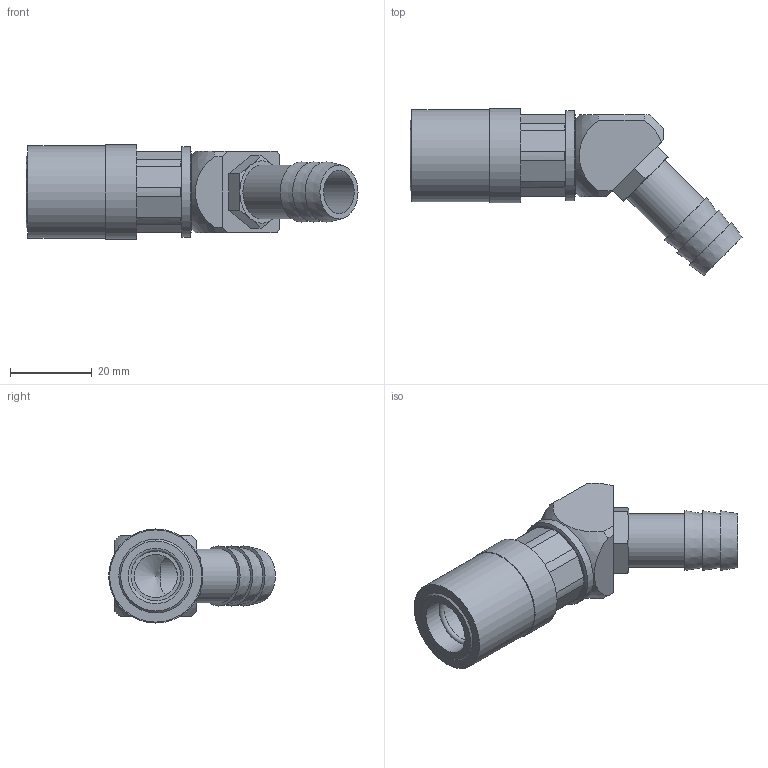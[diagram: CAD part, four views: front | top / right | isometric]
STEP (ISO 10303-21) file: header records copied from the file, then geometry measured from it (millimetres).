
FILE_DESCRIPTION(/* description */ ('STEP AP214'),/* implementation_level */ '2;1');
FILE_NAME(/* name */ 'JS-328-V',/* time_stamp */ '2024-12-19T08:58:57+01:00',/* author */ ('License CC BY-ND 4.0'),/* organization */ ('CADENAS'),/* preprocessor_version */ 'ST-DEVELOPER v19.3',/* originating_system */ 'PARTsolutions',/* authorisation */ ' ');
FILE_SCHEMA (('AUTOMOTIVE_DESIGN {1 0 10303 214 3 1 1}'));
Length unit declared in the file: inch
Products named in the file (1): JS-328-V
Bounding box: 81.31 x 40.8 x 23.06 mm (x, y, z)
Volume: 17529.9 mm3; surface area: 9536.6 mm2
Topology: 1 solids, 1 shells, 80 faces, 202 edges, 133 vertices
Faces by surface type: plane 54, cone 13, cylinder 9, sphere 3, torus 1
Full cylindrical faces by diameter (mm): 10.566 x2, 13.208 x1, 13.564 x2, 20.066 x1, 22.073 x1, 22.606 x1, 23.058 x1
Entity records: 2366 total; most frequent: CARTESIAN_POINT 489, DIRECTION 394, ORIENTED_EDGE 356, EDGE_CURVE 178, AXIS2_PLACEMENT_3D 167, VERTEX_POINT 128, FACE_BOUND 110, EDGE_LOOP 109
